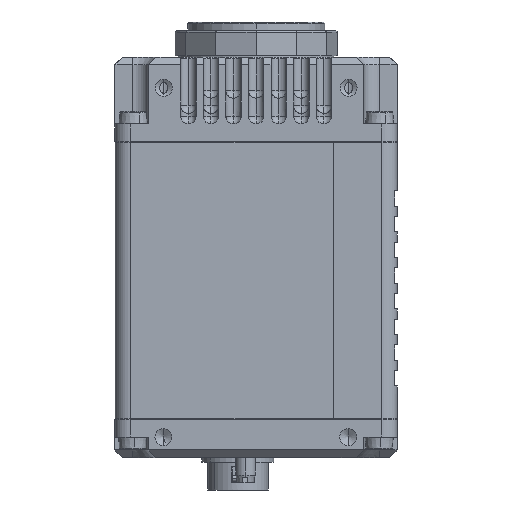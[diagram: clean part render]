
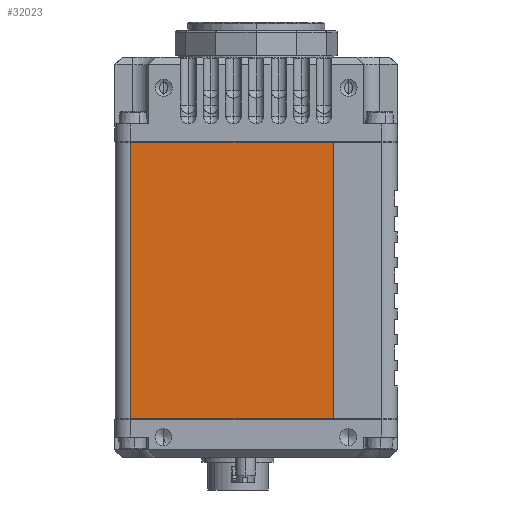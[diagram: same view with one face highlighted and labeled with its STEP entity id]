
A CAD part, left-side view. The second image highlights one B-rep face of the part: STEP entity #32023.
In plain terms, the highlighted planar face has unit normal (-1, 0, 0).
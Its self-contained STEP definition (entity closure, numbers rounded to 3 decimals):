
#43 = DIRECTION ( 'NONE',  ( 0., 0., -1. ) ) ;
#6575 = EDGE_CURVE ( 'NONE', #99449, #132426, #53657, .T. ) ;
#8186 = ORIENTED_EDGE ( 'NONE', *, *, #111816, .F. ) ;
#8404 = CARTESIAN_POINT ( 'NONE',  ( -27.5, -15.05, -59.48 ) ) ;
#8471 = VERTEX_POINT ( 'NONE', #51819 ) ;
#9053 = DIRECTION ( 'NONE',  ( 0., -1., 0. ) ) ;
#10405 = CARTESIAN_POINT ( 'NONE',  ( -27.5, 27.45, -59.48 ) ) ;
#15169 = ORIENTED_EDGE ( 'NONE', *, *, #6575, .F. ) ;
#16392 = VECTOR ( 'NONE', #9053, 1000. ) ;
#16644 = EDGE_LOOP ( 'NONE', ( #8186, #115342, #29255, #15169 ) ) ;
#16964 = VECTOR ( 'NONE', #64152, 1000. ) ;
#19411 = DIRECTION ( 'NONE',  ( 0., -1., 0. ) ) ;
#22035 = CARTESIAN_POINT ( 'NONE',  ( -27.5, 24.45, -59.48 ) ) ;
#28990 = LINE ( 'NONE', #29666, #119777 ) ;
#29255 = ORIENTED_EDGE ( 'NONE', *, *, #131488, .T. ) ;
#29346 = VERTEX_POINT ( 'NONE', #22035 ) ;
#29666 = CARTESIAN_POINT ( 'NONE',  ( -27.5, 27.45, -5.58 ) ) ;
#29705 = FACE_OUTER_BOUND ( 'NONE', #16644, .T. ) ;
#32023 = ADVANCED_FACE ( 'NONE', ( #29705 ), #130775, .F. ) ;
#37894 = DIRECTION ( 'NONE',  ( 0., 1., 0. ) ) ;
#50685 = DIRECTION ( 'NONE',  ( 1., 0., 0. ) ) ;
#51819 = CARTESIAN_POINT ( 'NONE',  ( -27.5, 24.45, -5.58 ) ) ;
#53127 = LINE ( 'NONE', #10405, #16392 ) ;
#53295 = CARTESIAN_POINT ( 'NONE',  ( -27.5, 24.45, -5.58 ) ) ;
#53657 = LINE ( 'NONE', #124210, #99197 ) ;
#64152 = DIRECTION ( 'NONE',  ( 0., 0., -1. ) ) ;
#77910 = EDGE_CURVE ( 'NONE', #8471, #29346, #85813, .T. ) ;
#85813 = LINE ( 'NONE', #53295, #16964 ) ;
#99197 = VECTOR ( 'NONE', #43, 1000. ) ;
#99449 = VERTEX_POINT ( 'NONE', #124402 ) ;
#102219 = CARTESIAN_POINT ( 'NONE',  ( -27.5, 27.45, -5.58 ) ) ;
#105527 = AXIS2_PLACEMENT_3D ( 'NONE', #102219, #50685, #37894 ) ;
#111816 = EDGE_CURVE ( 'NONE', #8471, #99449, #28990, .T. ) ;
#115342 = ORIENTED_EDGE ( 'NONE', *, *, #77910, .T. ) ;
#119777 = VECTOR ( 'NONE', #19411, 1000. ) ;
#124210 = CARTESIAN_POINT ( 'NONE',  ( -27.5, -15.05, -5.58 ) ) ;
#124402 = CARTESIAN_POINT ( 'NONE',  ( -27.5, -15.05, -5.58 ) ) ;
#130775 = PLANE ( 'NONE',  #105527 ) ;
#131488 = EDGE_CURVE ( 'NONE', #29346, #132426, #53127, .T. ) ;
#132426 = VERTEX_POINT ( 'NONE', #8404 ) ;
